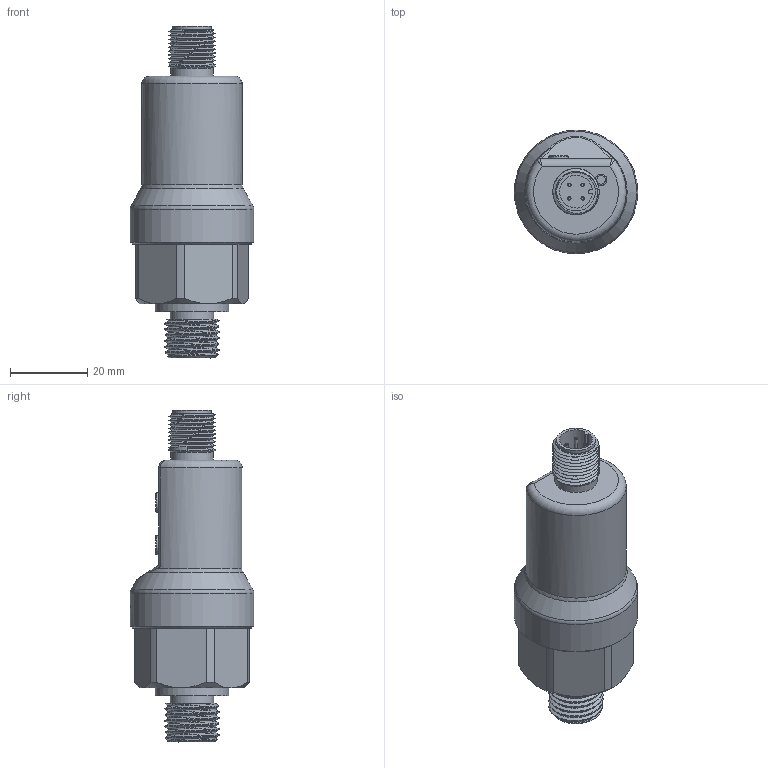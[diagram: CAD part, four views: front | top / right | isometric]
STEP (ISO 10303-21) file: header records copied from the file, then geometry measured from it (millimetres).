
FILE_DESCRIPTION( (''), '2;1');
FILE_NAME( 'PSKA_M14.step', '2025-08-21T15:38:32+08:00', (''), (''), '', '', '');
FILE_SCHEMA (('AUTOMOTIVE_DESIGN { 1 0 10303 214 3 1 1 1 }'));
Length unit declared in the file: millimetre
Products named in the file (1): PSKA M14
Bounding box: 32 x 32 x 86 mm (x, y, z)
Volume: 19611.1 mm3; surface area: 18630.8 mm2
Topology: 11 solids, 11 shells, 271 faces, 613 edges, 392 vertices
Faces by surface type: plane 141, cylinder 67, cone 26, torus 22, bspline 14, sphere 1
Full cylindrical faces by diameter (mm): 0.5 x2, 0.9 x8, 2 x4, 2.6 x1, 3 x1, 4 x1, 5 x2, 5.3 x2, 7 x1, 9.8 x2, 10 x1, 11 x1, 11.2 x1, 16.6 x1, 19 x1, 19.1 x1, 23 x2, 26 x3, 26.1 x1, 32 x1
Entity records: 11541 total; most frequent: CARTESIAN_POINT 5793, DIRECTION 1154, ORIENTED_EDGE 1042, EDGE_CURVE 521, AXIS2_PLACEMENT_3D 454, EDGE_LOOP 381, VERTEX_POINT 370, ADVANCED_FACE 270
